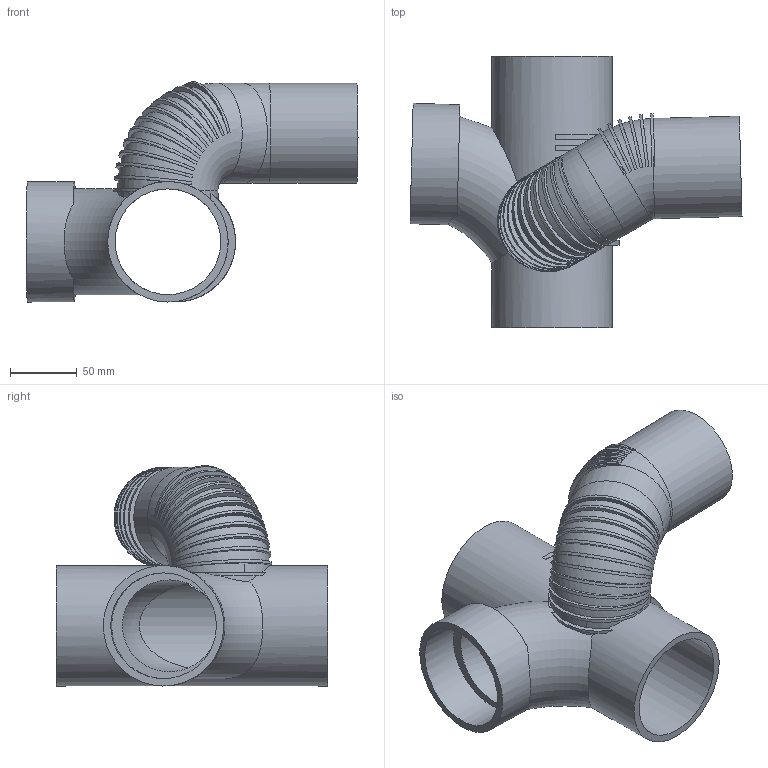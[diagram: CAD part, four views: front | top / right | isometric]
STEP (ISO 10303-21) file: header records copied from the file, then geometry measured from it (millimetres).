
FILE_DESCRIPTION(/* description */ (''),/* implementation_level */ '2;1');
FILE_NAME(/* name */ 'Z:\Geberit\Export\NewStep\308872.stp',/* time_stamp */ '2014-04-01T20:06:28+02:00',/* author */ ('ML'),/* organization */ (''),/* preprocessor_version */ 'ST-DEVELOPER v15.2',/* originating_system */ 'Autodesk Inventor 2014',/* authorisation */ '');
FILE_SCHEMA (('AUTOMOTIVE_DESIGN { 1 0 10303 214 3 1 1 }'));
Length unit declared in the file: millimetre
Products named in the file (1): 308872
Bounding box: 248 x 203 x 164.35 mm (x, y, z)
Volume: 523462.5 mm3; surface area: 234557.8 mm2
Topology: 5 solids, 5 shells, 125 faces, 332 edges, 215 vertices
Faces by surface type: plane 65, cylinder 53, torus 7
Full cylindrical faces by diameter (mm): 67.8 x2, 75 x2, 79 x2, 90 x2
Entity records: 4851 total; most frequent: CARTESIAN_POINT 1892, ORIENTED_EDGE 592, DIRECTION 553, EDGE_CURVE 292, AXIS2_PLACEMENT_3D 250, VERTEX_POINT 206, EDGE_LOOP 162, STYLED_ITEM 125
